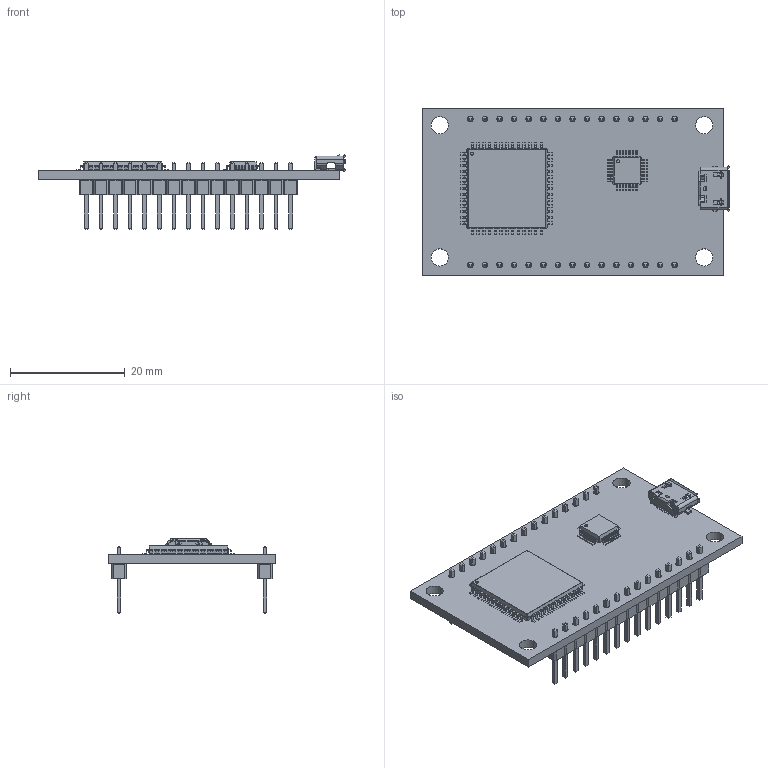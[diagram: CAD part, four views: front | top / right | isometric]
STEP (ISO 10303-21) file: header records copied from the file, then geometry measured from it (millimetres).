
FILE_DESCRIPTION(('KiCad electronic assembly'),'2;1');
FILE_NAME('ESP32-30pin.step','2024-08-12T18:18:22',('Pcbnew'),('Kicad'), 'Open CASCADE STEP processor 7.7','KiCad to STEP converter','Unknown' );
FILE_SCHEMA(('AUTOMOTIVE_DESIGN { 1 0 10303 214 1 1 1 1 }'));
Length unit declared in the file: millimetre
Products named in the file (10): ESP32-30pin 1; LQFP-52_14x14mm_P1mm; LQFP_52_14x14mm_P1mm; USB_Micro-B_Molex_47346-0001; LQFP-32_5x5mm_P0.5mm; LQFP_32_5x5mm_P05mm; PinHeader_1x15_P2.54mm_Vertical; PinHeader_1x15_P254mm_Vertical; ESP32-30pin PCB
Assembly tree (10 placements, depth 3):
  ESP32-30pin 1
    LQFP-52_14x14mm_P1mm
      LQFP_52_14x14mm_P1mm
    USB_Micro-B_Molex_47346-0001
      USB_Micro-B_Molex_47346-0001
    LQFP-32_5x5mm_P0.5mm
      LQFP_32_5x5mm_P05mm
    PinHeader_1x15_P2.54mm_Vertical  x2
      PinHeader_1x15_P254mm_Vertical
    ESP32-30pin PCB
Bounding box: 53.52 x 29.21 x 12.94 mm (x, y, z)
Volume: 3309.4 mm3; surface area: 5831.3 mm2
Topology: 6 solids, 6 shells, 2592 faces, 6924 edges, 4386 vertices
Faces by surface type: plane 1951, cylinder 497, bspline 140, sphere 4
Full cylindrical faces by diameter (mm): 0.5 x2, 1 x30, 3 x4
Entity records: 166705 total; most frequent: CARTESIAN_POINT 31147, DIRECTION 22151, LINE 15365, VECTOR 15365, ORIENTED_EDGE 12088, PCURVE 12088, DEFINITIONAL_REPRESENTATION 12088, EDGE_CURVE 6044
